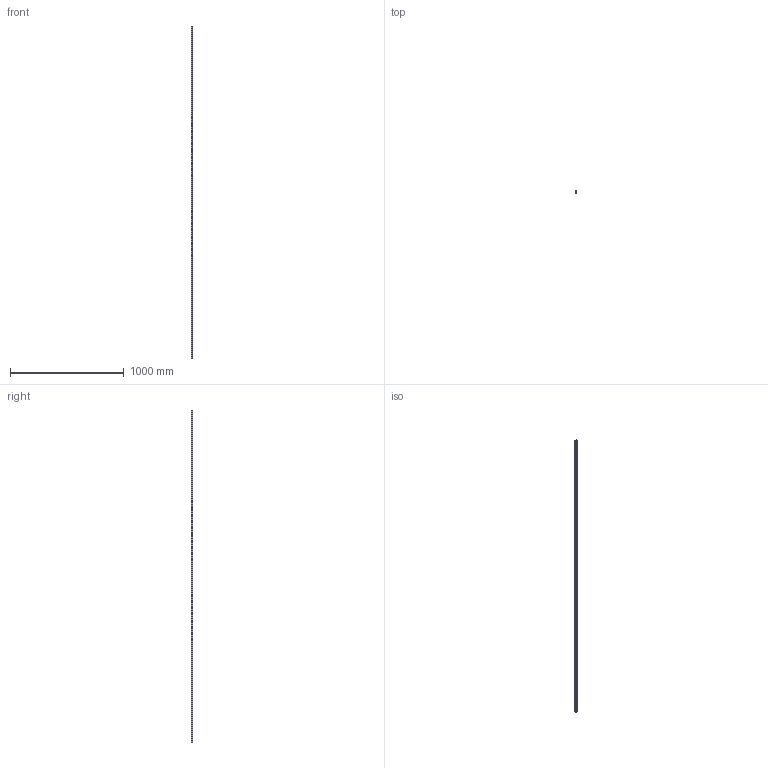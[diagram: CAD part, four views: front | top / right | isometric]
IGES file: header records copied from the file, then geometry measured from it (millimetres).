
Start section: SolidWorks IGES file using analytic representation for surfaces
Global section: file name: C:\Users\IanO\Desktop\L1016_v2\L1016.BL15_v2\L1016.BL15_v2_20190611_IGES\L1016.BL15-2920.igs; native system: SolidWorks 2017; preprocessor: SolidWorks 2017; author: IanO; date: 190612.123415; units: millimetre
Bounding box: 15 x 13 x 2920 mm (x, y, z)
Surface area: 178341.4 mm2 (no closed solid volume)
Topology: 0 solids, 0 shells, 271 faces, 7208 edges, 7208 vertices
Faces by surface type: revolution 200, bspline 71
